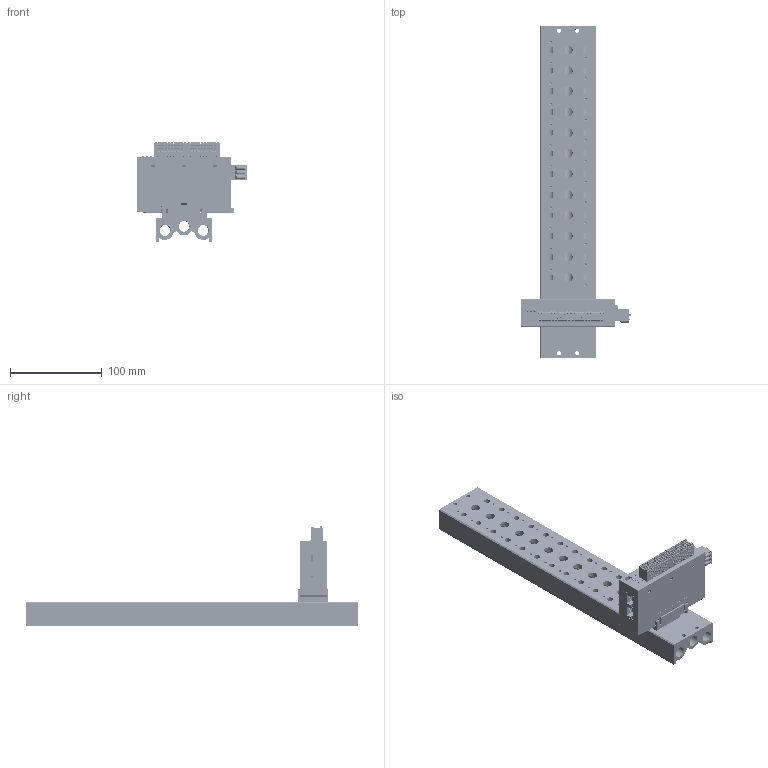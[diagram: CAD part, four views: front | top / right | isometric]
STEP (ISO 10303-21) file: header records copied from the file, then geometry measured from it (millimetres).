
FILE_DESCRIPTION(/* description */ (''),/* implementation_level */ '2;1');
FILE_NAME(/* name */ '',/* time_stamp */ '2025-10-09T16:10:39+08:00',/* author */ (''),/* organization */ (''),/* preprocessor_version */ 'ST-DEVELOPER v14',/* originating_system */ 'SIEMENS PLM Software NX 8.0',/* authorisation */ '');
FILE_SCHEMA (('AP203_CONFIGURATION_CONTROLLED_3D_DESIGN_OF_MECHANICAL_PARTS_AND_ASSEMBLIES_MIM_LF { 1 0 10303 403 2 1 2}'));
Products named in the file (1): DELL3E5857E9ucg5
Bounding box: 119.8 x 361 x 108.48 mm (x, y, z)
Volume: 528634.9 mm3; surface area: 172087 mm2
Topology: 2 solids, 228 shells, 9957 faces, 26393 edges, 17188 vertices
Faces by surface type: plane 6483, cylinder 2286, torus 336, bspline 335, cone 238, extrusion 184, sphere 95
Full cylindrical faces by diameter (mm): 0.18 x2, 2.5 x29, 3.05 x40, 3.3 x3, 3.5 x4, 4 x4, 4.5 x4, 6 x4, 6.5 x24, 9.6 x1, 10 x12, 11.492 x1, 11.5 x3, 11.8 x6
Entity records: 329169 total; most frequent: CARTESIAN_POINT 84593, ORIENTED_EDGE 51578, DIRECTION 48606, EDGE_CURVE 25789, VECTOR 18354, LINE 18170, VERTEX_POINT 17032, AXIS2_PLACEMENT_3D 15126
